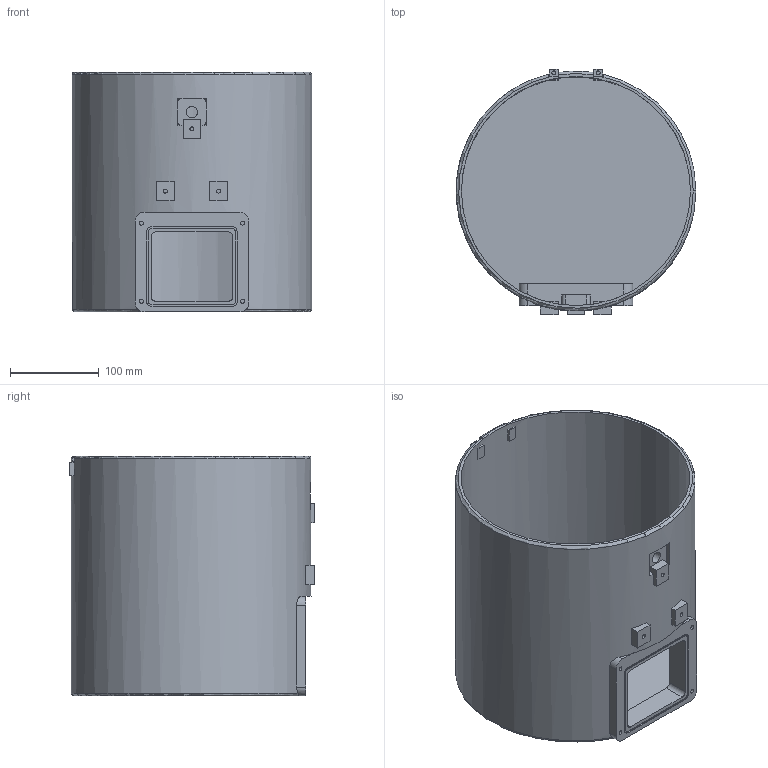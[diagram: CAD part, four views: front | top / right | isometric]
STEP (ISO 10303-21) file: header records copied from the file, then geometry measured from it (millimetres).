
FILE_DESCRIPTION(('FreeCAD Model'),'2;1');
FILE_NAME('Open CASCADE Shape Model','2026-10-14T02:28:25',('FreeCAD'),( 'FreeCAD'),'Open CASCADE STEP processor 7.8','FreeCAD','Unknown');
FILE_SCHEMA(('AUTOMOTIVE_DESIGN { 1 0 10303 214 1 1 1 1 }'));
Length unit declared in the file: millimetre
Products named in the file (1): Open CASCADE STEP translator 7.8 1
Bounding box: 269.9 x 276 x 270 mm (x, y, z)
Volume: 1743335.3 mm3; surface area: 559058.5 mm2
Topology: 1 solids, 1 shells, 149 faces, 386 edges, 257 vertices
Faces by surface type: plane 100, cylinder 44, torus 5
Full cylindrical faces by diameter (mm): 4.5 x9, 13 x1, 258 x1, 270 x1
Entity records: 4897 total; most frequent: CARTESIAN_POINT 1156, DIRECTION 774, ORIENTED_EDGE 772, EDGE_CURVE 386, AXIS2_PLACEMENT_3D 266, VERTEX_POINT 257, LINE 242, VECTOR 242
